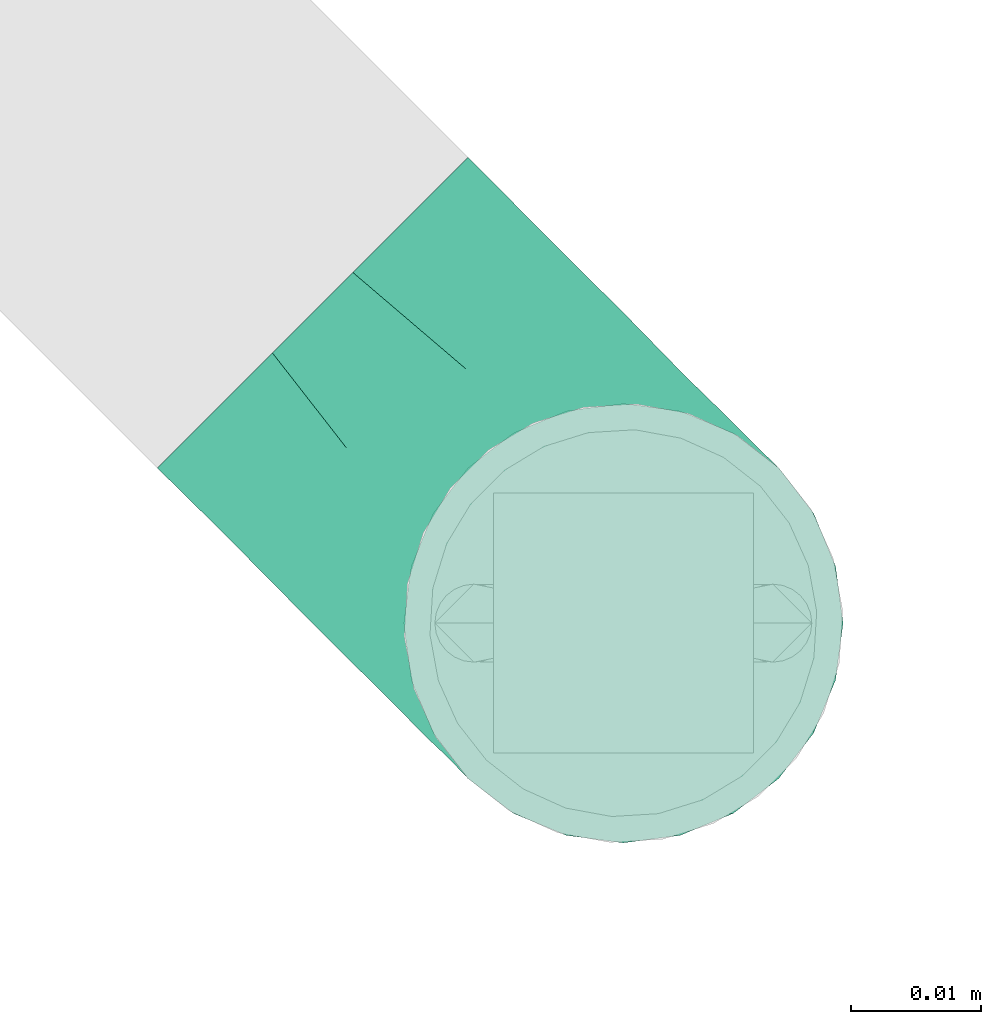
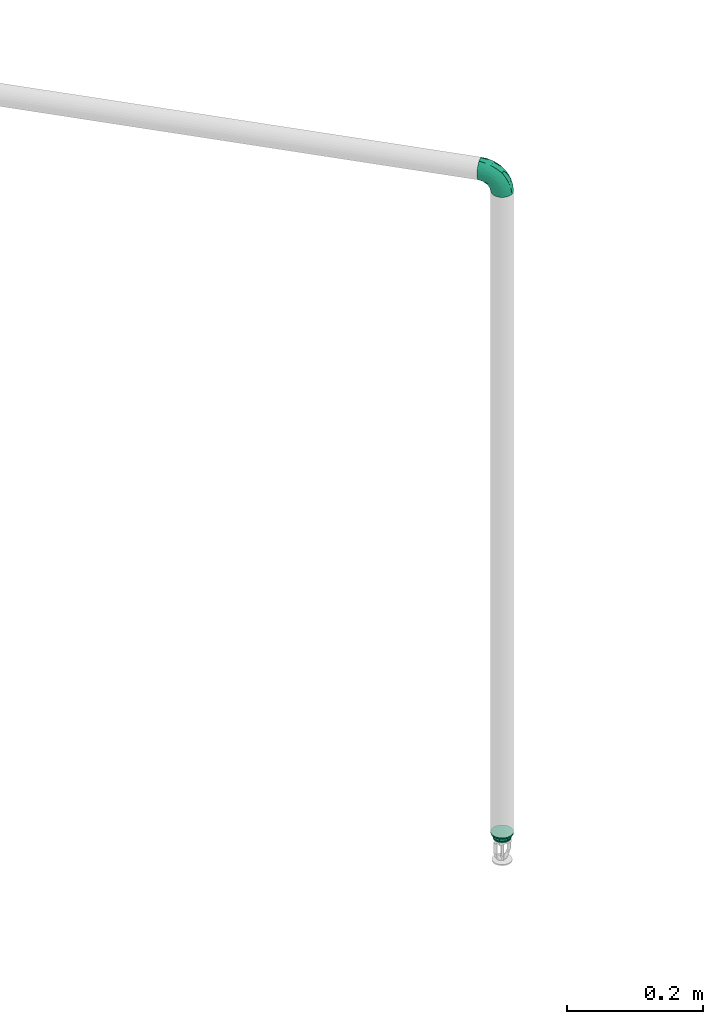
# One storey, part 12 of 17: 2 flow fittings.
"""IFC2X3 building model written with IfcOpenShell, lengths in millimetres."""

import ifcopenshell
import ifcopenshell.guid

model = None  # the IFC model being written
_history = None  # IfcOwnerHistory: only IFC2X3 demands one
_inside = {}  # id of a spatial element -> (the spatial element, [elements in it])
_under = {}  # id of a project, library or spatial element -> (it, [spatial elements below it])
_declared = {}  # id of a project -> (the project, [libraries it declares])
_typed = {}  # id of a type object -> (the type object, [elements of that type])
_made_of = {}  # id of a material, layer set ... -> (it, [elements and type objects made of it])


def new_model(schema):
    """Start an empty IFC model of exactly this schema.

    Asked for "IFC4X3", IfcOpenShell would pick the latest addendum, in which some entities
    have other attributes; the version numbers below select the first issue.
    IFC2X3 requires an IfcOwnerHistory on every rooted entity: one is made here for all.
    """
    global model, _history
    if schema == "IFC4X3":
        model = ifcopenshell.file(schema_version=(4, 3, 0, 0))
    else:
        model = ifcopenshell.file(schema=schema)
    _inside.clear()
    _under.clear()
    _declared.clear()
    _typed.clear()
    _made_of.clear()
    _history = None
    if model.schema == "IFC2X3":
        org = make("IfcOrganization", Name="unknown")
        user = make(
            "IfcPersonAndOrganization",
            ThePerson=make("IfcPerson", FamilyName="unknown"),
            TheOrganization=org,
        )
        app = make(
            "IfcApplication",
            ApplicationDeveloper=org,
            Version="unknown",
            ApplicationFullName="unknown",
            ApplicationIdentifier="unknown",
        )
        _history = make(
            "IfcOwnerHistory",
            OwningUser=user,
            OwningApplication=app,
            ChangeAction="ADDED",
            CreationDate=0,
        )
    return model


def make(cls, **values):
    """One entity of the class cls with the attributes given. An attribute that is None is left unset."""
    return model.create_entity(
        cls, **{name: value for name, value in values.items() if value is not None}
    )


def entity(cls, *values):
    """Any entity or typed value of the class cls, its attributes in the order of the schema. None: left unset."""
    e = model.create_entity(cls)
    for i, value in enumerate(values):
        if value is not None:
            e[i] = value
    return e


def rooted(cls, **values):
    """An entity with a GlobalId (a new one), such as an element, a storey or a relation."""
    return make(cls, GlobalId=ifcopenshell.guid.new(), OwnerHistory=_history, **values)


def si_unit(unit_type, name, prefix=None):
    """IfcSIUnit, for example si_unit("LENGTHUNIT", "METRE", prefix="MILLI")."""
    return make("IfcSIUnit", UnitType=unit_type, Prefix=prefix, Name=name)


def converted_unit(unit_type, name, factor, base, dimensions=None, offset=None):
    """IfcConversionBasedUnit, such as the inch: factor (a typed value) times the base unit."""
    return make(
        "IfcConversionBasedUnit"
        if offset is None
        else "IfcConversionBasedUnitWithOffset",
        ConversionOffset=offset,
        Dimensions=None
        if dimensions is None
        else entity("IfcDimensionalExponents", *dimensions),
        UnitType=unit_type,
        Name=name,
        ConversionFactor=make(
            "IfcMeasureWithUnit", ValueComponent=factor, UnitComponent=base
        ),
    )


def derived_unit(unit_type, elements):
    """IfcDerivedUnit: a product of units, each with its exponent."""
    return make(
        "IfcDerivedUnit",
        Elements=[
            make("IfcDerivedUnitElement", Unit=unit, Exponent=power)
            for unit, power in elements
        ],
        UnitType=unit_type,
    )


def assignment(units):
    """IfcUnitAssignment: the units of a project."""
    return None if units is None else make("IfcUnitAssignment", Units=units)


def point(xyz):
    """IfcCartesianPoint."""
    return None if xyz is None else make("IfcCartesianPoint", Coordinates=xyz)


def direction(xyz):
    """IfcDirection."""
    return None if xyz is None else make("IfcDirection", DirectionRatios=xyz)


def frame(location, z_axis=None, x_axis=None):
    """IfcAxis2Placement3D, a coordinate frame: its origin and axes. An axis left out is left unset."""
    return make(
        "IfcAxis2Placement3D",
        Location=point(location),
        Axis=direction(z_axis),
        RefDirection=direction(x_axis),
    )


def origin_with_axes():
    """The frame at (0, 0, 0) with the z axis (0, 0, 1) and the x axis (1, 0, 0) written out."""
    return frame((0.0, 0.0, 0.0), z_axis=(0.0, 0.0, 1.0), x_axis=(1.0, 0.0, 0.0))


def place(relative_to, where):
    """IfcLocalPlacement: puts the frame where relative to a parent placement (None: the world)."""
    return make(
        "IfcLocalPlacement", PlacementRelTo=relative_to, RelativePlacement=where
    )


def context(
    kind, dimensions, precision=None, world=None, true_north=None, identifier=None
):
    """IfcGeometricRepresentationContext, for example the 3D "Model" context."""
    return make(
        "IfcGeometricRepresentationContext",
        ContextIdentifier=identifier,
        ContextType=kind,
        CoordinateSpaceDimension=dimensions,
        Precision=precision,
        WorldCoordinateSystem=world,
        TrueNorth=true_north,
    )


def subcontext(parent, identifier, kind, view, scale=None):
    """IfcGeometricRepresentationSubContext, for example "Body" below "Model"."""
    return make(
        "IfcGeometricRepresentationSubContext",
        ContextIdentifier=identifier,
        ContextType=kind,
        ParentContext=parent,
        TargetScale=scale,
        TargetView=view,
    )


def project(units=None, contexts=None):
    """IfcProject with its units and contexts."""
    return rooted(
        "IfcProject",
        Name="project",
        RepresentationContexts=contexts,
        UnitsInContext=assignment(units),
    )


def spatial(cls, under=None, at=None, **own):
    """A site, building, storey or space (cls), placed at a placement, below another one or the project."""
    s = rooted(cls, ObjectPlacement=at, **own)
    if under is not None:
        _under.setdefault(under.id(), (under, []))[1].append(s)
    return s


def faces_of(points, faces, orient=None, outer=None):
    """IfcFace entities. A face is a list of loops; a loop is a list of indices into points, from 0.

    orient and outer hold one flag for each loop. By default every Orientation is true, the
    first loop of a face is its IfcFaceOuterBound and the others are IfcFaceBound.
    """
    made = []
    for i, loops in enumerate(faces):
        bounds = []
        for j, loop in enumerate(loops):
            is_outer = j == 0 if outer is None else outer[i][j]
            bounds.append(
                make(
                    "IfcFaceOuterBound" if is_outer else "IfcFaceBound",
                    Bound=make("IfcPolyLoop", Polygon=[points[k] for k in loop]),
                    Orientation=True if orient is None else orient[i][j],
                )
            )
        made.append(make("IfcFace", Bounds=bounds))
    return made


def open_shell(faces, orient=None, outer=None):
    """The faces of one IfcOpenShell. surface_model builds it on its shared points."""
    return ("IfcOpenShell", faces, orient, outer)


def surface_model(cls, points, shells):
    """IfcFaceBasedSurfaceModel or IfcShellBasedSurfaceModel (cls): surfaces that need not close."""
    shared = [point(p) for p in points]
    made = [make(c, CfsFaces=faces_of(shared, fs, o, b)) for c, fs, o, b in shells]
    if cls == "IfcFaceBasedSurfaceModel":
        return make(cls, FbsmFaces=made)
    return make(cls, SbsmBoundary=made)


def shape(context_of_items, identifier, shape_type, items):
    """IfcShapeRepresentation: the items that make up one representation, for example the "Body"."""
    return make(
        "IfcShapeRepresentation",
        ContextOfItems=context_of_items,
        RepresentationIdentifier=identifier,
        RepresentationType=shape_type,
        Items=items,
    )


def source(mapping_origin, context_of_items, identifier, shape_type, items):
    """IfcRepresentationMap: a shape defined once, which mapped items show again and again."""
    return make(
        "IfcRepresentationMap",
        MappingOrigin=mapping_origin,
        MappedRepresentation=shape(context_of_items, identifier, shape_type, items),
    )


def transform(
    local_origin,
    x_axis=None,
    y_axis=None,
    z_axis=None,
    scale=None,
    scale2=None,
    scale3=None,
    uniform=True,
):
    """IfcCartesianTransformationOperator3D, or its non-uniform kind. x_axis, y_axis, z_axis: its Axis1, 2, 3."""
    if uniform:
        return make(
            "IfcCartesianTransformationOperator3D",
            Axis1=direction(x_axis),
            Axis2=direction(y_axis),
            LocalOrigin=point(local_origin),
            Scale=scale,
            Axis3=direction(z_axis),
        )
    return make(
        "IfcCartesianTransformationOperator3DnonUniform",
        Axis1=direction(x_axis),
        Axis2=direction(y_axis),
        LocalOrigin=point(local_origin),
        Scale=scale,
        Axis3=direction(z_axis),
        Scale2=scale2,
        Scale3=scale3,
    )


def mapped(mapping_source, mapping_target):
    """IfcMappedItem: shows the shape of a source again, moved by a transform."""
    return make(
        "IfcMappedItem", MappingSource=mapping_source, MappingTarget=mapping_target
    )


def made_of(thing, what):
    """Note that an element or type object is made of a material, layer set ...; save() writes the relation."""
    if what is not None:
        _made_of.setdefault(what.id(), (what, []))[1].append(thing)
    return thing


def type_object(cls, material=None, **own):
    """A type object (cls), such as IfcWallType, which elements share."""
    return made_of(rooted(cls, **own), material)


def element(
    cls,
    number,
    at=None,
    inside=None,
    cuts=None,
    type_object=None,
    material=None,
    context=None,
    identifier="Body",
    shape_type=None,
    held_by="IfcProductDefinitionShape",
    body=None,
    shapes=None,
    **own,
):
    """One element of the class cls, such as IfcWall. Its Tag is "e" and its number.

    at: its placement. inside: the storey or other place that contains it. cuts: it is an
    opening in that element (IfcRelVoidsElement). A single representation is given by context,
    identifier, shape_type and body (its items); several are given by shapes. held_by: the class
    of the entity that holds the representations. save() writes the other relations.
    """
    e = rooted(cls, Tag="e%d" % number, ObjectPlacement=at, **own)
    if body is not None:
        shapes = [shape(context, identifier, shape_type, body)]
    if shapes is not None:
        e.Representation = make(held_by, Representations=shapes)
    if inside is not None:
        _inside.setdefault(inside.id(), (inside, []))[1].append(e)
    if cuts is not None:
        rooted(
            "IfcRelVoidsElement", RelatingBuildingElement=cuts, RelatedOpeningElement=e
        )
    if type_object is not None:
        _typed.setdefault(type_object.id(), (type_object, []))[1].append(e)
    return made_of(e, material)


def aggregate(whole, parts):
    """IfcRelAggregates: a whole, such as a stair, and the parts it consists of."""
    return rooted("IfcRelAggregates", RelatingObject=whole, RelatedObjects=parts)


def save(model, path):
    """Write the relations noted so far, then the file.

    IfcRelAggregates (storeys below a building ...), IfcRelContainedInSpatialStructure (elements
    in a storey), IfcRelDefinesByType, IfcRelAssociatesMaterial and IfcRelDeclares: one each for
    every whole, place, type object, material and project.
    """
    for whole, parts in _under.values():
        aggregate(whole, parts)
    for where, things in _inside.values():
        rooted(
            "IfcRelContainedInSpatialStructure",
            RelatedElements=things,
            RelatingStructure=where,
        )
    for kind, things in _typed.values():
        rooted("IfcRelDefinesByType", RelatedObjects=things, RelatingType=kind)
    for what, things in _made_of.values():
        rooted("IfcRelAssociatesMaterial", RelatedObjects=things, RelatingMaterial=what)
    for by, libraries in _declared.values():
        rooted("IfcRelDeclares", RelatingContext=by, RelatedDefinitions=libraries)
    model.write(path)


model = new_model("IFC2X3")

# Units and contexts
model_context = context("Model", 3, precision=0.01, world=frame((0.0, 4.29681676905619e-09, 0.0)), true_north=direction((4.01073788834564e-13, 1.0)))
plan_context = context("Plan", 3, precision=0.01, world=frame((0.0, 4.29681676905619e-09, 0.0)), true_north=direction((4.01073788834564e-13, 1.0)))
body_context = subcontext(model_context, "Body", "Model", "MODEL_VIEW")
ifc_project = project(units=[converted_unit("PLANEANGLEUNIT", "DEGREE", entity("IfcPositiveLengthMeasure", 0.0174532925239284), si_unit("PLANEANGLEUNIT", "RADIAN"), dimensions=[0, 0, 0, 0, 0, 0, 0]), si_unit("AREAUNIT", "SQUARE_METRE"), si_unit("LENGTHUNIT", "METRE", prefix="MILLI"), si_unit("MASSUNIT", "GRAM", prefix="KILO"), si_unit("POWERUNIT", "WATT"), si_unit("PRESSUREUNIT", "PASCAL", prefix="KILO"), si_unit("FORCEUNIT", "NEWTON", prefix="KILO"), si_unit("ELECTRICVOLTAGEUNIT", "VOLT"), si_unit("ELECTRICCURRENTUNIT", "AMPERE"), si_unit("THERMODYNAMICTEMPERATUREUNIT", "DEGREE_CELSIUS"), si_unit("TIMEUNIT", "SECOND"), si_unit("VOLUMEUNIT", "CUBIC_METRE"), derived_unit("LINEARVELOCITYUNIT", [(si_unit("LENGTHUNIT", "METRE"), 1), (si_unit("TIMEUNIT", "SECOND"), -1)]), derived_unit("VOLUMETRICFLOWRATEUNIT", [(si_unit("VOLUMEUNIT", "CUBIC_METRE"), 1), (si_unit("TIMEUNIT", "SECOND"), -1)]), derived_unit("THERMALTRANSMITTANCEUNIT", [(si_unit("POWERUNIT", "WATT"), 1), (si_unit("THERMODYNAMICTEMPERATUREUNIT", "KELVIN"), -1), (si_unit("AREAUNIT", "SQUARE_METRE"), -1)]), derived_unit("SOUNDPRESSUREUNIT", [(si_unit("PRESSUREUNIT", "PASCAL"), 1)])], contexts=[model_context, plan_context])

# Site, building, storey
site_placement = place(None, frame((0.0, -4.29681676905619e-09, 0.0), z_axis=(0.0, 0.0, 1.0), x_axis=(1.0, 0.0, 0.0)))
site = spatial("IfcSite", under=ifc_project, at=site_placement, CompositionType="ELEMENT")
building_placement = place(site_placement, frame((0.0, 4.29681676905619e-09, 0.0), z_axis=(0.0, 0.0, 1.0), x_axis=(1.0, 0.0, 0.0)))
building = spatial("IfcBuilding", under=site, at=building_placement, Name="mc-building", CompositionType="ELEMENT")
storey_placement = place(building_placement, frame((0.0, 0.0, 204000.0), z_axis=(0.0, 0.0, 1.0), x_axis=(1.0, 0.0, 0.0)))
storey = spatial("IfcBuildingStorey", under=building, at=storey_placement, Name="Nivå D", CompositionType="ELEMENT", Elevation=204000.0)

# Flow fittings
pipe_fitting_type_1 = type_object("IfcPipeFittingType", Name="magi_pipe_fe_elbow_short_001", PredefinedType="BEND")
shared_shape_1 = source(origin_with_axes(), body_context, "Body", "SurfaceModel", [
    surface_model("IfcShellBasedSurfaceModel", [(-33.8, 8.45, -14.63583), (-33.8, 4.37404, -16.32415), (-33.8, 11.9501, -11.9501), (-33.8, -11.9501, -11.9501), (-33.8, -14.63583, -8.45), (-33.8, -8.45, -14.63583), (-33.8, 0.0, -16.9), (-33.8, -4.37404, -16.32415), (-33.8, -4.37404, 16.32415), (-33.8, 0.0, 16.9), (-33.8, -8.45, 14.63583), (-33.8, 16.32415, -4.37404), (-33.8, 14.63583, -8.45), (-33.8, -16.32415, -4.37404), (-33.8, -16.9, 0.0), (-33.8, -16.32415, 4.37404), (-33.8, 11.9501, 11.9501), (-33.8, 14.63583, 8.45), (-33.8, 16.32415, 4.37404), (-33.8, 4.37404, 16.32415), (-33.8, 8.45, 14.63583), (-33.8, -14.63583, 8.45), (-33.8, -11.9501, 11.9501), (-33.8, 16.9, 0.0), (-11.9501, 33.8, -11.9501), (0.0, 33.8, -16.9), (-4.37404, 33.8, -16.32415), (-8.45, 33.8, -14.63583), (-14.63583, 33.8, -8.45), (-16.32415, 33.8, -4.37404), (14.63583, 33.8, -8.45), (8.45, 33.8, 14.63583), (16.32415, 33.8, -4.37404), (8.45, 33.8, -14.63583), (11.9501, 33.8, -11.9501), (4.37404, 33.8, -16.32415), (16.32415, 33.8, 4.37404), (16.9, 33.8, 0.0), (-11.9501, 33.8, 11.9501), (-16.32415, 33.8, 4.37404), (-14.63583, 33.8, 8.45), (-8.45, 33.8, 14.63583), (-4.37404, 33.8, 16.32415), (11.9501, 33.8, 11.9501), (14.63583, 33.8, 8.45), (0.0, 33.8, 16.9), (4.37404, 33.8, 16.32415), (-16.9, 33.8, 0.0), (-24.79389, -13.12945, 9.48721), (-22.19287, -9.75018, 12.59315), (-24.09897, -14.97035, 0.0), (-14.93934, -10.76256, 8.5297), (-22.46095, -14.75051, 5.27077), (14.75051, 22.46094, 5.27077), (11.9251, 13.23888, 4.33236), (13.04069, 14.39795, 0.0), (7.71387, 13.68847, 11.55891), (9.75018, 22.19287, 12.59315), (4.10169, 13.0571, 14.04018), (-24.84007, -6.39063, 15.2048), (-25.81779, -2.23879, 16.61097), (-23.66549, 2.59054, 16.87119), (-26.50418, 14.06512, 11.08152), (-24.21253, 17.66365, 7.72657), (-29.58514, 15.86957, 7.00283), (-6.17382, -7.5455, 0.0), (-13.23888, -11.9251, 4.33236), (-14.39795, -13.04069, 0.0), (-17.81434, 18.87373, 11.97104), (-6.30846, 29.15138, 15.82987), (-2.31622, 25.28002, 16.85849), (-29.23923, 10.23435, 13.77053), (-1.45439, -2.85688, 7.61475), (-0.28326, 0.34872, 10.09509), (-5.74484, -4.04709, 10.4122), (-4.41137, 11.31918, 16.59407), (-8.39727, 3.10034, 15.7812), (-1.72649, 9.1306, 15.53089), (-17.39909, 24.75344, 7.64977), (-26.19233, 20.0512, 0.0), (-28.14518, 17.29657, 4.25857), (-26.05147, 6.6281, 15.96447), (-5.87354, 16.61944, 16.86968), (-12.51807, 12.51807, 16.48937), (-10.06312, 7.38516, 16.81295), (-3.01882, 3.01882, 13.81718), (-13.0571, -4.10169, 14.04018), (-16.82553, -0.15166, 16.38038), (10.76256, 14.93934, 8.5297), (13.12945, 24.79389, 9.48721), (6.39063, 24.84007, 15.2048), (2.23879, 25.81779, 16.61097), (-13.68847, -7.71387, 11.55891), (14.97035, 24.09897, 0.0), (-7.30894, 22.89991, 16.09489), (-10.67958, 26.17414, 14.008), (-12.78295, 18.26924, 15.06066), (-13.88562, 22.45231, 12.93244), (-18.04944, 15.16501, 14.04434), (-23.11658, 20.08178, 4.02986), (-21.84989, 21.84989, 0.0), (-18.55817, 25.48277, 3.93065), (-13.95142, 26.94732, 11.03289), (-18.57098, 7.23906, 16.59756), (-16.58335, 4.14122, 16.89279), (-17.96666, 11.46709, 15.63151), (-9.84453, 17.54304, 16.18938), (0.15166, 16.82553, 16.38038), (-23.27207, 11.47201, 14.23154), (3.84842, 5.86994, 10.70473), (-8.0212, -7.54413, 7.93275), (1.00345, -2.19508, 4.57414), (5.13203, 3.01004, 5.90201), (5.24161, 1.7543, 2.53265), (8.70457, 7.04947, 3.99182), (-20.0512, 26.19233, 0.0), (8.4852, 8.76699, 7.09296), (-4.55488, -6.72064, 4.90681), (2.05031, -2.05031, 0.0), (7.5455, 6.17382, 0.0), (-26.75399, 2.1369, -16.845), (-14.61995, 24.73803, -11.27736), (-28.45274, -13.45335, -9.81895), (-26.00469, 6.63555, -15.96645), (-23.06726, 20.04573, -4.26202), (-13.80647, -4.26506, -14.17873), (-14.67501, -0.21081, -16.07388), (-6.7902, -0.2828, -13.8478), (-24.53586, 11.08096, -14.13417), (-26.72048, 14.00837, -11.05776), (10.0967, 24.44989, -12.75976), (5.83237, 21.40218, -15.03047), (6.66249, 28.54238, -15.38093), (-20.38182, 15.48705, -12.74596), (12.53268, 21.23441, -9.15363), (12.54494, 15.67504, -5.54878), (9.7522, 12.89279, -8.66343), (-15.65186, 19.64213, -13.01327), (-12.03528, 20.66498, -14.67665), (-15.61907, 15.61906, -14.83879), (-25.56551, -15.26206, 0.0), (-24.65452, -15.12934, -5.50955), (13.45335, 28.45274, -9.81895), (15.12934, 24.65452, -5.50955), (-7.35442, -8.31014, -5.65563), (-15.67504, -12.54494, -5.54878), (-24.44989, -10.0967, -12.75976), (0.16522, 0.41303, -9.71728), (-5.70658, -5.33066, -8.89288), (-5.13869, -2.37198, -11.53565), (-21.23441, -12.53268, -9.15363), (0.71146, 7.93863, -14.09382), (0.21081, 14.67501, -16.07388), (3.49291, 14.42772, -14.76381), (-24.89911, -2.13088, -16.591), (-28.54238, -6.66249, -15.38093), (-18.44386, -7.71663, -13.26957), (2.13088, 24.89911, -16.591), (-28.64342, 17.44413, -2.89318), (1.70017, -1.28722, -5.09504), (-16.57067, 26.81947, -7.36596), (-17.69055, 27.4263, -3.76405), (-12.89279, -9.7522, -8.66343), (-5.96611, 5.96611, -15.95814), (-20.53709, 20.09345, -8.28985), (-2.1369, 26.75399, -16.845), (-6.89872, 24.58781, -16.02578), (-10.60739, 26.53157, -13.98044), (-21.40218, -5.83237, -15.03047), (2.93192, 5.89627, -11.55917), (6.89393, 12.61842, -11.82233), (5.58056, 5.95325, -8.79455), (-3.99512, 18.61798, -16.89635), (8.31014, 7.35442, -5.65563), (-9.1383, 9.86148, -16.89041), (-9.99983, 16.02119, -16.39699), (-16.68576, 9.78031, -16.34199), (-27.01915, 16.61158, -7.12979), (15.26206, 25.56551, 0.0), (-18.61798, 3.99512, -16.89635), (-19.37495, 27.82495, 0.0), (-12.61842, -6.89393, -11.82233), (-18.84705, 19.14018, -10.96545)], [open_shell([[[0, 1, 2]], [[3, 4, 5]], [[6, 7, 5]], [[8, 9, 10]], [[1, 6, 2]], [[11, 12, 2]], [[4, 2, 6]], [[2, 13, 10]], [[5, 4, 6]], [[2, 4, 13]], [[14, 15, 13]], [[11, 2, 16]], [[11, 17, 18]], [[11, 16, 17]], [[19, 20, 16]], [[16, 2, 10]], [[19, 16, 10]], [[21, 22, 15]], [[22, 13, 15]], [[22, 10, 13]], [[10, 9, 19]], [[11, 18, 23]], [[24, 25, 26]], [[24, 26, 27]], [[24, 28, 29]], [[25, 24, 30]], [[31, 32, 24]], [[33, 30, 34]], [[33, 35, 25]], [[25, 30, 33]], [[32, 30, 24]], [[32, 36, 37]], [[38, 24, 29]], [[39, 40, 29]], [[40, 38, 29]], [[38, 41, 42]], [[38, 31, 24]], [[31, 38, 42]], [[36, 43, 44]], [[36, 32, 43]], [[31, 45, 46]], [[32, 31, 43]], [[42, 45, 31]], [[39, 29, 47]], [[22, 48, 49]], [[15, 14, 50]], [[51, 48, 52]], [[53, 54, 55]], [[48, 22, 21]], [[15, 52, 21]], [[56, 57, 58]], [[49, 10, 22]], [[49, 59, 10]], [[9, 60, 61]], [[62, 63, 64]], [[65, 66, 67]], [[57, 43, 31]], [[62, 68, 63]], [[42, 69, 70]], [[20, 71, 16]], [[8, 60, 9]], [[72, 73, 74]], [[75, 76, 77]], [[16, 62, 17]], [[40, 39, 78]], [[79, 23, 80]], [[64, 18, 17]], [[9, 61, 19]], [[19, 81, 20]], [[82, 83, 84]], [[74, 85, 86]], [[59, 86, 87]], [[88, 89, 57]], [[90, 31, 46]], [[44, 53, 36]], [[46, 45, 91]], [[54, 53, 88]], [[44, 89, 53]], [[92, 86, 49]], [[89, 44, 43]], [[10, 59, 8]], [[53, 55, 93]], [[93, 36, 53]], [[66, 52, 67]], [[94, 82, 70]], [[95, 96, 94]], [[97, 98, 96]], [[79, 99, 100]], [[41, 38, 95]], [[101, 100, 99]], [[68, 78, 63]], [[42, 41, 69]], [[23, 18, 80]], [[95, 94, 69]], [[78, 101, 99]], [[38, 102, 95]], [[70, 45, 42]], [[97, 95, 102]], [[15, 50, 52]], [[90, 57, 31]], [[57, 90, 58]], [[81, 19, 61]], [[103, 104, 84]], [[105, 81, 103]], [[38, 40, 102]], [[106, 96, 83]], [[94, 106, 82]], [[91, 70, 107]], [[71, 62, 16]], [[62, 108, 98]], [[86, 59, 49]], [[67, 52, 50]], [[60, 59, 87]], [[92, 49, 51]], [[86, 85, 76]], [[91, 90, 46]], [[37, 36, 93]], [[107, 77, 58]], [[107, 58, 90]], [[58, 85, 109]], [[110, 74, 92]], [[72, 74, 110]], [[66, 51, 52]], [[72, 111, 112]], [[113, 114, 112]], [[56, 88, 57]], [[52, 48, 21]], [[49, 48, 51]], [[57, 89, 43]], [[53, 89, 88]], [[103, 81, 61]], [[71, 81, 108]], [[18, 64, 80]], [[63, 78, 99]], [[47, 115, 101]], [[101, 115, 100]], [[40, 78, 102]], [[68, 102, 78]], [[97, 96, 95]], [[105, 98, 108]], [[103, 84, 83]], [[107, 70, 82]], [[76, 84, 87]], [[82, 84, 75]], [[70, 91, 45]], [[90, 91, 107]], [[59, 60, 8]], [[61, 60, 87]], [[73, 85, 74]], [[109, 112, 116]], [[103, 61, 104]], [[105, 103, 83]], [[96, 105, 83]], [[81, 105, 108]], [[96, 98, 105]], [[62, 98, 68]], [[61, 87, 104]], [[87, 84, 104]], [[86, 76, 87]], [[77, 76, 85]], [[58, 77, 85]], [[75, 77, 107]], [[82, 75, 107]], [[76, 75, 84]], [[81, 71, 20]], [[62, 71, 108]], [[95, 69, 41]], [[70, 69, 94]], [[62, 64, 17]], [[80, 63, 99]], [[63, 80, 64]], [[80, 99, 79]], [[66, 65, 117]], [[110, 66, 117]], [[112, 114, 116]], [[118, 117, 65]], [[110, 92, 51]], [[112, 111, 113]], [[119, 55, 54]], [[74, 86, 92]], [[58, 109, 56]], [[116, 56, 109]], [[66, 110, 51]], [[72, 110, 117]], [[111, 72, 117]], [[73, 112, 109]], [[117, 118, 111]], [[113, 111, 118]], [[118, 119, 113]], [[114, 119, 54]], [[119, 114, 113]], [[116, 54, 88]], [[54, 116, 114]], [[116, 88, 56]], [[112, 73, 72]], [[85, 73, 109]], [[78, 39, 101]], [[47, 101, 39]], [[102, 68, 97]], [[97, 68, 98]], [[82, 106, 83]], [[94, 96, 106]], [[1, 120, 6]], [[28, 24, 121]], [[3, 122, 4]], [[0, 123, 1]], [[100, 124, 79]], [[125, 126, 127]], [[128, 2, 129]], [[130, 131, 132]], [[128, 129, 133]], [[134, 135, 136]], [[137, 138, 139]], [[128, 0, 2]], [[67, 140, 141]], [[134, 142, 143]], [[141, 13, 4]], [[144, 65, 145]], [[146, 3, 5]], [[147, 148, 149]], [[145, 141, 150]], [[151, 152, 153]], [[154, 7, 6]], [[5, 155, 146]], [[150, 146, 156]], [[155, 5, 7]], [[143, 135, 134]], [[35, 157, 25]], [[23, 79, 158]], [[148, 159, 144]], [[160, 161, 29]], [[145, 162, 144]], [[163, 152, 151]], [[29, 28, 160]], [[121, 164, 160]], [[33, 34, 130]], [[25, 165, 26]], [[26, 165, 166]], [[142, 34, 30]], [[24, 27, 167]], [[124, 161, 164]], [[157, 35, 132]], [[155, 154, 168]], [[123, 0, 128]], [[169, 170, 171]], [[172, 157, 152]], [[26, 166, 27]], [[132, 35, 33]], [[142, 130, 34]], [[168, 154, 126]], [[136, 135, 173]], [[133, 137, 139]], [[2, 12, 129]], [[170, 131, 130]], [[30, 32, 143]], [[172, 174, 175]], [[176, 123, 128]], [[158, 177, 11]], [[135, 55, 119]], [[167, 27, 166]], [[175, 166, 172]], [[137, 167, 138]], [[122, 141, 4]], [[140, 14, 13]], [[32, 37, 178]], [[170, 130, 134]], [[152, 157, 131]], [[165, 157, 172]], [[153, 170, 151]], [[152, 163, 174]], [[168, 125, 156]], [[122, 146, 150]], [[120, 154, 6]], [[179, 174, 126]], [[179, 126, 154]], [[126, 163, 127]], [[162, 145, 150]], [[140, 13, 141]], [[32, 178, 143]], [[55, 143, 178]], [[177, 129, 12]], [[128, 133, 139]], [[176, 128, 139]], [[120, 123, 179]], [[121, 160, 28]], [[161, 100, 180]], [[166, 175, 138]], [[121, 24, 167]], [[161, 47, 29]], [[79, 124, 158]], [[124, 164, 177]], [[161, 124, 100]], [[136, 171, 170]], [[127, 163, 151]], [[147, 171, 159]], [[148, 144, 162]], [[127, 151, 169]], [[127, 181, 125]], [[129, 177, 164]], [[12, 11, 177]], [[159, 65, 144]], [[67, 141, 145]], [[143, 55, 135]], [[135, 119, 173]], [[123, 120, 1]], [[154, 120, 179]], [[157, 165, 25]], [[166, 165, 172]], [[172, 152, 174]], [[176, 139, 175]], [[126, 174, 163]], [[176, 174, 179]], [[174, 176, 175]], [[123, 176, 179]], [[150, 181, 162]], [[127, 149, 181]], [[181, 148, 162]], [[159, 148, 147]], [[171, 136, 173]], [[170, 134, 136]], [[159, 171, 173]], [[171, 147, 169]], [[169, 147, 149]], [[151, 170, 169]], [[164, 182, 129]], [[182, 121, 137]], [[181, 149, 148]], [[169, 149, 127]], [[182, 137, 133]], [[167, 137, 121]], [[166, 138, 167]], [[175, 139, 138]], [[129, 182, 133]], [[121, 182, 164]], [[161, 160, 164]], [[47, 161, 180]], [[177, 158, 124]], [[23, 158, 11]], [[130, 132, 33]], [[157, 132, 131]], [[143, 142, 30]], [[130, 142, 134]], [[154, 155, 7]], [[146, 155, 168]], [[146, 122, 3]], [[141, 122, 150]], [[152, 131, 153]], [[159, 119, 118]], [[67, 145, 65]], [[170, 153, 131]], [[119, 159, 173]], [[159, 118, 65]], [[156, 125, 181]], [[126, 125, 168]], [[150, 156, 181]], [[168, 156, 146]]])]),
])
flow_fitting_1_placement = place(storey_placement, frame((600314.06451, 400725.11928, 3390.0), z_axis=(0.707106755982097, 0.707106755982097, 0.000266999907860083), x_axis=(0.707106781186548, -0.707106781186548, 0.0)))
element("IfcFlowFitting", 1, at=flow_fitting_1_placement, inside=storey, type_object=pipe_fitting_type_1, Name="magi_pipe_fe_elbow_short_001", context=body_context, shape_type="MappedRepresentation", body=[
    mapped(shared_shape_1, transform((0.0, 0.0, 0.0), scale=1.0)),
])
pipe_fitting_type_2 = type_object("IfcPipeFittingType", Name="magi_pipe_fe_reducer_centric_short_NOR", PredefinedType="TRANSITION")
shared_shape_2 = source(origin_with_axes(), body_context, "Body", "SurfaceModel", [
    surface_model("IfcShellBasedSurfaceModel", [(-2.0, -9.47523, 9.47523), (-2.0, 0.0, 13.4), (-2.0, 3.46818, 12.94341), (-2.0, 6.7, 11.60474), (-2.0, 9.47523, 9.47523), (-2.0, 11.60474, 6.7), (-2.0, 12.94341, 3.46818), (-2.0, -3.46818, 12.94341), (-2.0, -6.7, 11.60474), (-2.0, -12.94341, 3.46818), (-2.0, -11.60474, 6.7), (-2.0, -6.7, -11.60474), (-2.0, -12.94341, -3.46818), (-2.0, -13.4, 0.0), (-2.0, 12.94341, -3.46818), (-2.0, 6.7, -11.60474), (-2.0, 9.47523, -9.47523), (-2.0, 11.60474, -6.7), (-2.0, 3.46818, -12.94341), (-2.0, 0.0, -13.4), (-2.0, -9.47523, -9.47523), (-2.0, -11.60474, -6.7), (-2.0, -3.46818, -12.94341), (-2.0, 13.4, 0.0), (0.0, 12.94341, -3.46818), (0.0, 3.46818, -12.94341), (0.0, 6.7, -11.60474), (0.0, 11.60474, -6.7), (0.0, 9.47523, -9.47523), (0.0, -6.7, -11.60474), (0.0, -12.94341, 3.46818), (0.0, -3.46818, -12.94341), (0.0, 0.0, -13.4), (0.0, -9.47523, -9.47523), (0.0, -12.94341, -3.46818), (0.0, -11.60474, -6.7), (0.0, 13.4, 0.0), (0.0, 12.94341, 3.46818), (0.0, 11.60474, 6.7), (0.0, 9.47523, 9.47523), (0.0, 0.0, 13.4), (0.0, 6.7, 11.60474), (0.0, 3.46818, 12.94341), (0.0, -9.47523, 9.47523), (0.0, -11.60474, 6.7), (0.0, -13.4, 0.0), (0.0, -3.46818, 12.94341), (0.0, -6.7, 11.60474), (9.0, 4.37404, -16.32415), (9.0, 8.45, -14.63583), (9.0, 11.9501, -11.9501), (9.0, 0.0, -16.9), (9.0, 16.32415, -4.37404), (9.0, 16.32415, 4.37404), (9.0, 14.63583, -8.45), (9.0, -8.45, -14.63583), (9.0, -4.37404, -16.32415), (9.0, -11.9501, -11.9501), (9.0, -16.32415, -4.37404), (9.0, -14.63583, -8.45), (9.0, -16.32415, 4.37404), (9.0, 16.9, 0.0), (9.0, 14.63583, 8.45), (9.0, 11.9501, 11.9501), (9.0, 4.37404, 16.32415), (9.0, 0.0, 16.9), (9.0, 8.45, 14.63583), (9.0, -14.63583, 8.45), (9.0, -16.9, 0.0), (9.0, -8.45, 14.63583), (9.0, -11.9501, 11.9501), (9.0, -4.37404, 16.32415), (7.0, 4.37404, 16.32415), (7.0, -14.63583, 8.45), (7.0, 0.0, 16.9), (7.0, 16.32415, 4.37404), (7.0, 8.45, 14.63583), (7.0, 11.9501, 11.9501), (7.0, 14.63583, 8.45), (7.0, -8.45, 14.63583), (7.0, -11.9501, 11.9501), (7.0, -4.37404, 16.32415), (7.0, -16.32415, 4.37404), (7.0, -16.32415, -4.37404), (7.0, -16.9, 0.0), (7.0, -8.45, -14.63583), (7.0, 16.32415, -4.37404), (7.0, 11.9501, -11.9501), (7.0, 14.63583, -8.45), (7.0, 8.45, -14.63583), (7.0, 4.37404, -16.32415), (7.0, 0.0, -16.9), (7.0, -11.9501, -11.9501), (7.0, -14.63583, -8.45), (7.0, -4.37404, -16.32415), (7.0, 16.9, 0.0), (7.0, -14.51228, -5.76448), (0.0, -11.43761, -4.73762), (7.0, -13.23119, -8.85729), (0.0, -10.45642, -7.10642), (0.0, -12.41881, -2.36881), (7.0, -15.70614, -2.88224), (0.0, -2.36881, -12.41881), (7.0, -5.97505, -14.42505), (0.0, -7.10642, -10.45642), (0.0, -4.73762, -11.43761), (7.0, -2.98753, -15.66253), (7.0, -8.96258, -13.18758), (7.0, 2.98753, -15.66253), (0.0, 2.36881, -12.41881), (0.0, 12.45339, -2.28533), (7.0, 13.18758, -8.96258), (0.0, 10.45642, -7.10642), (7.0, 14.42505, -5.97505), (0.0, 11.43761, -4.73762), (0.0, 7.10642, -10.45642), (7.0, 8.96258, -13.18758), (7.0, 15.66253, -2.98753), (0.0, 4.73762, -11.43761), (7.0, 5.97505, -14.42505), (7.0, 14.51228, 5.76448), (0.0, 11.43761, 4.73762), (7.0, 13.23119, 8.85729), (0.0, 10.45642, 7.10642), (0.0, 12.41881, 2.36881), (7.0, 15.70614, 2.88224), (0.0, 2.36881, 12.41881), (7.0, 5.97505, 14.42505), (0.0, 7.10642, 10.45642), (0.0, 4.73762, 11.43761), (7.0, 2.98753, 15.66253), (7.0, 8.96258, 13.18758), (7.0, -2.98753, 15.66253), (0.0, -2.36881, 12.41881), (0.0, -12.45339, 2.28533), (7.0, -13.18758, 8.96258), (0.0, -10.45642, 7.10642), (7.0, -14.42505, 5.97505), (0.0, -11.43761, 4.73762), (0.0, -7.10642, 10.45642), (7.0, -8.96258, 13.18758), (7.0, -15.66253, 2.98753), (0.0, -4.73762, 11.43761), (7.0, -5.97505, 14.42505)], [open_shell([[[0, 1, 2]], [[3, 0, 2]], [[4, 5, 6]], [[4, 6, 3]], [[0, 3, 6]], [[7, 0, 8]], [[7, 1, 0]], [[0, 9, 10]], [[0, 11, 9]], [[9, 12, 13]], [[14, 0, 6]], [[0, 14, 15]], [[16, 14, 17]], [[18, 0, 15]], [[15, 14, 16]], [[18, 19, 0]], [[12, 20, 21]], [[12, 9, 20]], [[22, 11, 0]], [[9, 11, 20]], [[22, 0, 19]], [[23, 14, 6]], [[24, 25, 26]], [[27, 26, 28]], [[29, 25, 30]], [[24, 26, 27]], [[25, 24, 30]], [[25, 31, 32]], [[25, 29, 31]], [[33, 34, 35]], [[30, 34, 33]], [[33, 29, 30]], [[24, 36, 30]], [[37, 38, 39]], [[37, 39, 40]], [[41, 42, 40]], [[41, 40, 39]], [[37, 40, 43]], [[30, 43, 44]], [[45, 34, 30]], [[43, 46, 47]], [[43, 30, 37]], [[46, 43, 40]], [[30, 36, 37]], [[12, 34, 13]], [[21, 35, 12]], [[29, 20, 11]], [[21, 20, 33]], [[31, 11, 22]], [[12, 35, 34]], [[34, 45, 13]], [[31, 29, 11]], [[33, 20, 29]], [[33, 35, 21]], [[32, 31, 22]], [[22, 19, 32]], [[18, 25, 19]], [[15, 26, 18]], [[27, 16, 17]], [[15, 16, 28]], [[24, 17, 14]], [[15, 28, 26]], [[26, 25, 18]], [[36, 24, 14]], [[27, 17, 24]], [[27, 28, 16]], [[23, 36, 14]], [[19, 25, 32]], [[6, 37, 23]], [[5, 38, 6]], [[41, 4, 3]], [[5, 4, 39]], [[42, 3, 2]], [[6, 38, 37]], [[37, 36, 23]], [[42, 41, 3]], [[39, 4, 41]], [[39, 38, 5]], [[40, 42, 2]], [[2, 1, 40]], [[7, 46, 1]], [[8, 47, 7]], [[44, 0, 10]], [[8, 0, 43]], [[30, 10, 9]], [[8, 43, 47]], [[47, 46, 7]], [[45, 30, 9]], [[44, 10, 30]], [[44, 43, 0]], [[13, 45, 9]], [[1, 46, 40]], [[33, 45, 43]], [[40, 39, 36]], [[48, 49, 50]], [[51, 48, 50]], [[50, 52, 53]], [[52, 50, 54]], [[50, 53, 55]], [[51, 55, 56]], [[51, 50, 55]], [[57, 58, 59]], [[58, 57, 55]], [[55, 60, 58]], [[53, 52, 61]], [[53, 62, 63]], [[53, 63, 64]], [[64, 65, 53]], [[64, 63, 66]], [[53, 65, 67]], [[53, 67, 60]], [[68, 58, 60]], [[67, 69, 70]], [[67, 65, 69]], [[69, 65, 71]], [[60, 55, 53]], [[72, 73, 74]], [[75, 72, 76]], [[77, 78, 75]], [[77, 75, 76]], [[73, 72, 75]], [[79, 73, 80]], [[73, 79, 81]], [[74, 73, 81]], [[75, 82, 73]], [[82, 83, 84]], [[82, 75, 85]], [[75, 86, 87]], [[87, 86, 88]], [[87, 89, 90]], [[85, 75, 87]], [[90, 91, 87]], [[83, 92, 93]], [[92, 83, 85]], [[85, 91, 94]], [[83, 82, 85]], [[87, 91, 85]], [[86, 75, 95]], [[83, 58, 84]], [[93, 59, 83]], [[55, 92, 85]], [[93, 92, 57]], [[56, 85, 94]], [[83, 59, 58]], [[58, 68, 84]], [[56, 55, 85]], [[57, 92, 55]], [[57, 59, 93]], [[51, 56, 94]], [[94, 91, 51]], [[90, 48, 91]], [[89, 49, 90]], [[54, 87, 88]], [[89, 87, 50]], [[52, 88, 86]], [[89, 50, 49]], [[49, 48, 90]], [[61, 52, 86]], [[54, 88, 52]], [[54, 50, 87]], [[95, 61, 86]], [[91, 48, 51]], [[75, 53, 95]], [[78, 62, 75]], [[66, 77, 76]], [[78, 77, 63]], [[64, 76, 72]], [[75, 62, 53]], [[53, 61, 95]], [[64, 66, 76]], [[63, 77, 66]], [[63, 62, 78]], [[65, 64, 72]], [[72, 74, 65]], [[81, 71, 74]], [[79, 69, 81]], [[67, 80, 73]], [[79, 80, 70]], [[60, 73, 82]], [[79, 70, 69]], [[69, 71, 81]], [[68, 60, 82]], [[67, 73, 60]], [[67, 70, 80]], [[84, 68, 82]], [[74, 71, 65]], [[84, 77, 74]], [[87, 95, 77]], [[74, 80, 84]], [[84, 92, 91]], [[91, 87, 84]], [[84, 87, 77]], [[33, 43, 40]], [[36, 28, 33]], [[32, 33, 28]], [[36, 33, 40]], [[96, 97, 98]], [[33, 92, 99]], [[100, 96, 101]], [[102, 32, 91]], [[103, 104, 105]], [[102, 91, 106]], [[107, 33, 104]], [[108, 32, 109]], [[110, 36, 95]], [[45, 101, 84]], [[108, 91, 32]], [[111, 28, 112]], [[113, 112, 114]], [[115, 87, 116]], [[110, 95, 117]], [[99, 98, 97]], [[117, 113, 114]], [[106, 103, 105]], [[118, 116, 119]], [[109, 118, 119]], [[96, 100, 97]], [[45, 100, 101]], [[99, 92, 98]], [[104, 103, 107]], [[107, 92, 33]], [[106, 105, 102]], [[112, 113, 111]], [[111, 87, 28]], [[117, 114, 110]], [[116, 118, 115]], [[115, 28, 87]], [[109, 119, 108]], [[120, 121, 122]], [[39, 77, 123]], [[124, 120, 125]], [[126, 40, 74]], [[127, 128, 129]], [[126, 74, 130]], [[131, 39, 128]], [[132, 40, 133]], [[134, 45, 84]], [[36, 125, 95]], [[132, 74, 40]], [[135, 43, 136]], [[137, 136, 138]], [[139, 80, 140]], [[134, 84, 141]], [[123, 122, 121]], [[141, 137, 138]], [[130, 127, 129]], [[142, 140, 143]], [[133, 142, 143]], [[120, 124, 121]], [[36, 124, 125]], [[123, 77, 122]], [[128, 127, 131]], [[131, 77, 39]], [[130, 129, 126]], [[136, 137, 135]], [[135, 80, 43]], [[141, 138, 134]], [[140, 142, 139]], [[139, 43, 80]], [[133, 143, 132]]])]),
])
flow_fitting_2_placement = place(storey_placement, frame((600314.0709, 400725.12566, 2200.95164000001), z_axis=(0.0, 1.0, 0.0), x_axis=(0.0, 0.0, 1.0)))
element("IfcFlowFitting", 2, at=flow_fitting_2_placement, inside=storey, type_object=pipe_fitting_type_2, Name="magi_pipe_fe_reducer_centric_short_NOR", context=body_context, shape_type="MappedRepresentation", body=[
    mapped(shared_shape_2, transform((0.0, 0.0, 0.0), scale=1.0)),
])

save(model, "model.ifc")
